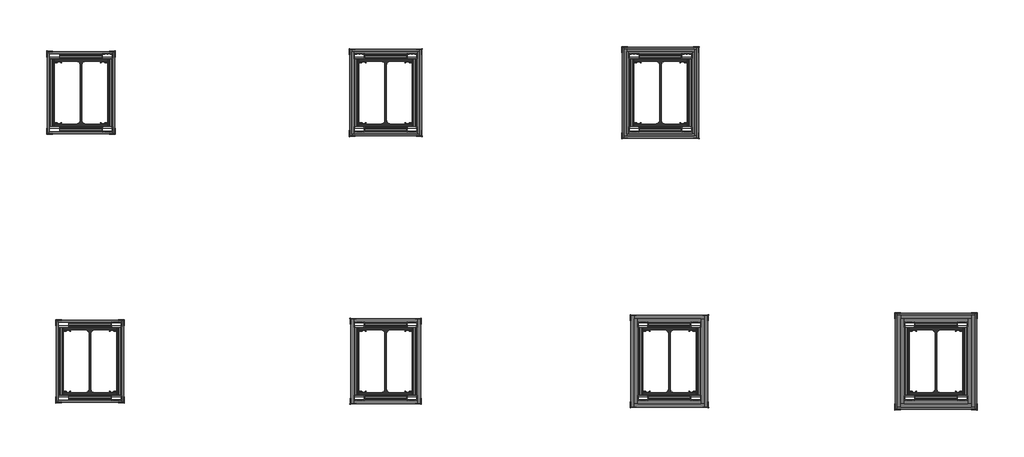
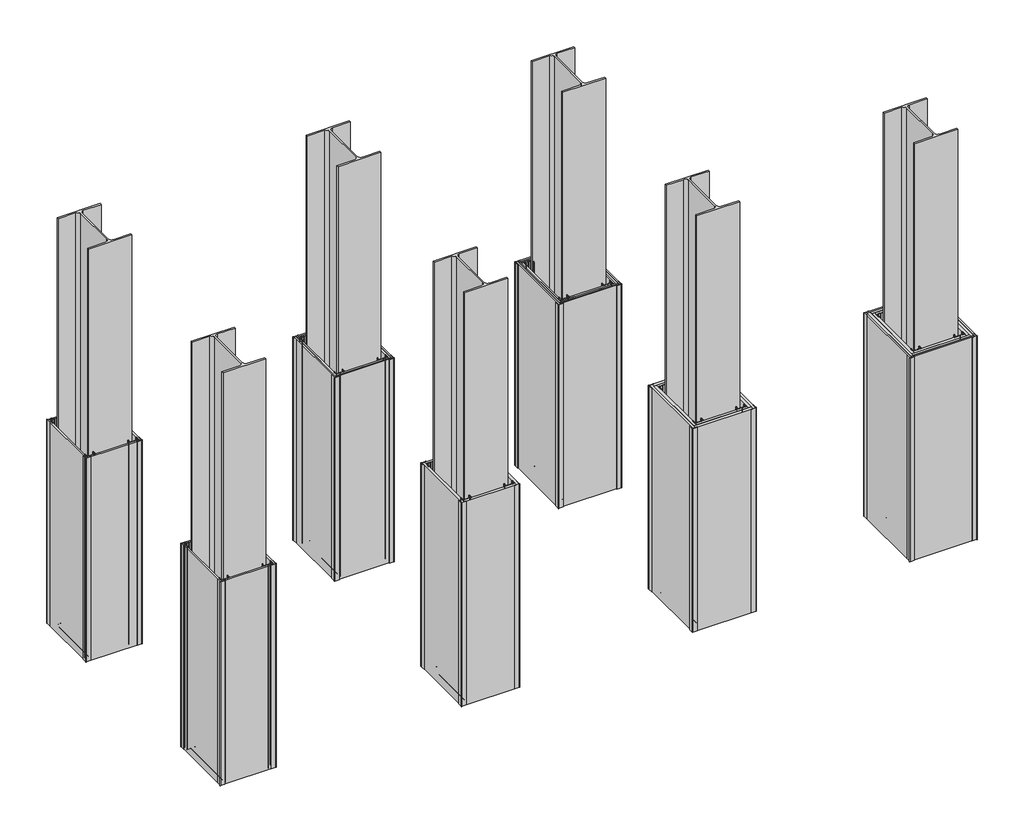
# One storey: 108 proxies, 14 columns.
"""IFC4 building model written with IfcOpenShell, lengths in millimetres."""

from ifc_helpers import new_model, si_unit, origin, place, context, project, spatial, transform, mapped, element, save
from components import mechanical_equipment_f312fb64, mechanical_equipment_8723e74f, mechanical_equipment_9e59f555, mechanical_equipment_1e4b647e, generic_models_da8a6fc9, generic_models_81ac6650, mechanical_equipment_f8a1cab5, mechanical_equipment_167060bf, generic_models_517ed48a, generic_models_b6768885, generic_models_21a93c99, generic_models_9ed90865, generic_models_85a3ba65, generic_models_de24bb9f, generic_models_1c3e6b41, generic_models_1a282b68, generic_models_c8f02a48, generic_models_18763be3, generic_models_7fcc82d4, generic_models_afc5f548, generic_models_3024f5be, generic_models_151085bc, column_70669c84, column_d6a319f2, column_7eb6c130, column_ee933b32, column_374d2ba1, column_57e66f01, i_40h1_c1fda57e

model = new_model("IFC4")

# Units and contexts
model_context = context("Model", 3, world=origin())
ifc_project = project(units=[si_unit("LENGTHUNIT", "METRE", prefix="MILLI")], contexts=[model_context])

# Site, building, storey
site = spatial("IfcSite", under=ifc_project)
building = spatial("IfcBuilding", under=site)
storey = spatial("IfcBuildingStorey", under=building, Name="Уровень 1", Elevation=0.0)

# Proxies
placement = place(None, origin())
mechanical_equipment_shape = mechanical_equipment_f312fb64(model_context)
element("IfcBuildingElementProxy", 1, Name="КНАУФ_Профильl ПП 60x27 : КНАУФ_Профильl ПП 60x27", ObjectType="КНАУФ_Профильl ПП 60x27 : КНАУФ_Профильl ПП 60x27", at=placement, inside=storey, context=model_context, shape_type="MappedRepresentation", body=[
    mapped(mechanical_equipment_shape, transform((-3480.594929, 1819.3710561, 30.0), x_axis=(1.0, 0.0, 0.0), y_axis=(0.0, 0.0, 1.0), z_axis=(0.0, -1.0, 0.0))),
])
element("IfcBuildingElementProxy", 2, Name="КНАУФ_Профильl ПП 60x27 : КНАУФ_Профильl ПП 60x27", ObjectType="КНАУФ_Профильl ПП 60x27 : КНАУФ_Профильl ПП 60x27", at=placement, inside=storey, context=model_context, shape_type="MappedRepresentation", body=[
    mapped(mechanical_equipment_shape, transform((-1743.554578, 1819.3710561, 30.0), x_axis=(1.0, 0.0, 0.0), y_axis=(0.0, 0.0, 1.0), z_axis=(0.0, -1.0, 0.0))),
])
element("IfcBuildingElementProxy", 3, Name="КНАУФ_Профильl ПП 60x27 : КНАУФ_Профильl ПП 60x27", ObjectType="КНАУФ_Профильl ПП 60x27 : КНАУФ_Профильl ПП 60x27", at=placement, inside=storey, context=model_context, shape_type="MappedRepresentation", body=[
    mapped(mechanical_equipment_shape, transform((-176.8123007, 1819.3710561, 30.0), x_axis=(1.0, 0.0, 0.0), y_axis=(0.0, 0.0, 1.0), z_axis=(0.0, -1.0, 0.0))),
])
element("IfcBuildingElementProxy", 4, Name="КНАУФ_Профильl ПП 60x27 : КНАУФ_Профильl ПП 60x27", ObjectType="КНАУФ_Профильl ПП 60x27 : КНАУФ_Профильl ПП 60x27", at=placement, inside=storey, context=model_context, shape_type="MappedRepresentation", body=[
    mapped(mechanical_equipment_shape, transform((-3429.505507, 287.8804799, 30.0), x_axis=(1.0, 0.0, 0.0), y_axis=(0.0, 0.0, 1.0), z_axis=(0.0, -1.0, 0.0))),
])
element("IfcBuildingElementProxy", 5, Name="КНАУФ_Профильl ПП 60x27 : КНАУФ_Профильl ПП 60x27", ObjectType="КНАУФ_Профильl ПП 60x27 : КНАУФ_Профильl ПП 60x27", at=placement, inside=storey, context=model_context, shape_type="MappedRepresentation", body=[
    mapped(mechanical_equipment_shape, transform((-1743.554578, 287.8804799, 30.0), x_axis=(1.0, 0.0, 0.0), y_axis=(0.0, 0.0, 1.0), z_axis=(0.0, -1.0, 0.0))),
])
element("IfcBuildingElementProxy", 6, Name="КНАУФ_Профильl ПП 60x27 : КНАУФ_Профильl ПП 60x27", ObjectType="КНАУФ_Профильl ПП 60x27 : КНАУФ_Профильl ПП 60x27", at=placement, inside=storey, context=model_context, shape_type="MappedRepresentation", body=[
    mapped(mechanical_equipment_shape, transform((-125.7228786, 287.8804799, 30.0), x_axis=(1.0, 0.0, 0.0), y_axis=(0.0, 0.0, 1.0), z_axis=(0.0, -1.0, 0.0))),
])
element("IfcBuildingElementProxy", 7, Name="КНАУФ_Профильl ПП 60x27 : КНАУФ_Профильl ПП 60x27", ObjectType="КНАУФ_Профильl ПП 60x27 : КНАУФ_Профильl ПП 60x27", at=placement, inside=storey, context=model_context, shape_type="MappedRepresentation", body=[
    mapped(mechanical_equipment_shape, transform((1394.2771214, 287.8804799, 30.0), x_axis=(1.0, 0.0, 0.0), y_axis=(0.0, 0.0, 1.0), z_axis=(0.0, -1.0, 0.0))),
])
mechanical_equipment_2_shape = mechanical_equipment_8723e74f(model_context)
element("IfcBuildingElementProxy", 8, Name="КНАУФ_Профильl ПП 60x27 : КНАУФ_Профильl ПП 60x27", ObjectType="КНАУФ_Профильl ПП 60x27 : КНАУФ_Профильl ПП 60x27", at=placement, inside=storey, context=model_context, shape_type="MappedRepresentation", body=[
    mapped(mechanical_equipment_2_shape, transform((-3480.594929, 1376.3710561, 30.0), x_axis=(1.0, 0.0, 0.0), y_axis=(0.0, 0.0, -1.0), z_axis=(0.0, 1.0, 0.0))),
])
element("IfcBuildingElementProxy", 9, Name="КНАУФ_Профильl ПП 60x27 : КНАУФ_Профильl ПП 60x27", ObjectType="КНАУФ_Профильl ПП 60x27 : КНАУФ_Профильl ПП 60x27", at=placement, inside=storey, context=model_context, shape_type="MappedRepresentation", body=[
    mapped(mechanical_equipment_2_shape, transform((-1743.554578, 1376.3710561, 30.0), x_axis=(1.0, 0.0, 0.0), y_axis=(0.0, 0.0, -1.0), z_axis=(0.0, 1.0, 0.0))),
])
element("IfcBuildingElementProxy", 10, Name="КНАУФ_Профильl ПП 60x27 : КНАУФ_Профильl ПП 60x27", ObjectType="КНАУФ_Профильl ПП 60x27 : КНАУФ_Профильl ПП 60x27", at=placement, inside=storey, context=model_context, shape_type="MappedRepresentation", body=[
    mapped(mechanical_equipment_2_shape, transform((-176.8123007, 1376.3710561, 30.0), x_axis=(1.0, 0.0, 0.0), y_axis=(0.0, 0.0, -1.0), z_axis=(0.0, 1.0, 0.0))),
])
element("IfcBuildingElementProxy", 11, Name="КНАУФ_Профильl ПП 60x27 : КНАУФ_Профильl ПП 60x27", ObjectType="КНАУФ_Профильl ПП 60x27 : КНАУФ_Профильl ПП 60x27", at=placement, inside=storey, context=model_context, shape_type="MappedRepresentation", body=[
    mapped(mechanical_equipment_2_shape, transform((-3429.505507, -155.1195201, 30.0), x_axis=(1.0, 0.0, 0.0), y_axis=(0.0, 0.0, -1.0), z_axis=(0.0, 1.0, 0.0))),
])
element("IfcBuildingElementProxy", 12, Name="КНАУФ_Профильl ПП 60x27 : КНАУФ_Профильl ПП 60x27", ObjectType="КНАУФ_Профильl ПП 60x27 : КНАУФ_Профильl ПП 60x27", at=placement, inside=storey, context=model_context, shape_type="MappedRepresentation", body=[
    mapped(mechanical_equipment_2_shape, transform((-1743.554578, -155.1195201, 30.0), x_axis=(1.0, 0.0, 0.0), y_axis=(0.0, 0.0, -1.0), z_axis=(0.0, 1.0, 0.0))),
])
element("IfcBuildingElementProxy", 13, Name="КНАУФ_Профильl ПП 60x27 : КНАУФ_Профильl ПП 60x27", ObjectType="КНАУФ_Профильl ПП 60x27 : КНАУФ_Профильl ПП 60x27", at=placement, inside=storey, context=model_context, shape_type="MappedRepresentation", body=[
    mapped(mechanical_equipment_2_shape, transform((-125.7228786, -155.1195201, 30.0), x_axis=(1.0, 0.0, 0.0), y_axis=(0.0, 0.0, -1.0), z_axis=(0.0, 1.0, 0.0))),
])
element("IfcBuildingElementProxy", 14, Name="КНАУФ_Профильl ПП 60x27 : КНАУФ_Профильl ПП 60x27", ObjectType="КНАУФ_Профильl ПП 60x27 : КНАУФ_Профильl ПП 60x27", at=placement, inside=storey, context=model_context, shape_type="MappedRepresentation", body=[
    mapped(mechanical_equipment_2_shape, transform((1394.2771214, -155.1195201, 30.0), x_axis=(1.0, 0.0, 0.0), y_axis=(0.0, 0.0, -1.0), z_axis=(0.0, 1.0, 0.0))),
])
mechanical_equipment_3_shape = mechanical_equipment_9e59f555(model_context)
element("IfcBuildingElementProxy", 15, Name="КНАУФ_Профильl ПП 60x27 : КНАУФ_Профильl ПП 60x27", ObjectType="КНАУФ_Профильl ПП 60x27 : КНАУФ_Профильl ПП 60x27", at=placement, inside=storey, context=model_context, shape_type="MappedRepresentation", body=[
    mapped(mechanical_equipment_3_shape, transform((-3510.594929, 1819.3710561, 0.0), x_axis=(0.0, 0.0, 1.0), y_axis=(-1.0, 0.0, 0.0), z_axis=(0.0, -1.0, 0.0))),
])
element("IfcBuildingElementProxy", 16, Name="КНАУФ_Профильl ПП 60x27 : КНАУФ_Профильl ПП 60x27", ObjectType="КНАУФ_Профильl ПП 60x27 : КНАУФ_Профильl ПП 60x27", at=placement, inside=storey, context=model_context, shape_type="MappedRepresentation", body=[
    mapped(mechanical_equipment_3_shape, transform((-3210.594929, 1376.3710561, 0.0), x_axis=(0.0, 0.0, 1.0), y_axis=(1.0, 0.0, 0.0), z_axis=(0.0, 1.0, 0.0))),
])
element("IfcBuildingElementProxy", 17, Name="КНАУФ_Профильl ПП 60x27 : КНАУФ_Профильl ПП 60x27", ObjectType="КНАУФ_Профильl ПП 60x27 : КНАУФ_Профильl ПП 60x27", at=placement, inside=storey, context=model_context, shape_type="MappedRepresentation", body=[
    mapped(mechanical_equipment_3_shape, transform((-1773.554578, 1819.3710561, 0.0), x_axis=(0.0, 0.0, 1.0), y_axis=(-1.0, 0.0, 0.0), z_axis=(0.0, -1.0, 0.0))),
])
element("IfcBuildingElementProxy", 18, Name="КНАУФ_Профильl ПП 60x27 : КНАУФ_Профильl ПП 60x27", ObjectType="КНАУФ_Профильl ПП 60x27 : КНАУФ_Профильl ПП 60x27", at=placement, inside=storey, context=model_context, shape_type="MappedRepresentation", body=[
    mapped(mechanical_equipment_3_shape, transform((-1473.554578, 1376.3710561, 0.0), x_axis=(0.0, 0.0, 1.0), y_axis=(1.0, 0.0, 0.0), z_axis=(0.0, 1.0, 0.0))),
])
element("IfcBuildingElementProxy", 19, Name="КНАУФ_Профильl ПП 60x27 : КНАУФ_Профильl ПП 60x27", ObjectType="КНАУФ_Профильl ПП 60x27 : КНАУФ_Профильl ПП 60x27", at=placement, inside=storey, context=model_context, shape_type="MappedRepresentation", body=[
    mapped(mechanical_equipment_3_shape, transform((-206.8123007, 1819.3710561, 0.0), x_axis=(0.0, 0.0, 1.0), y_axis=(-1.0, 0.0, 0.0), z_axis=(0.0, -1.0, 0.0))),
])
element("IfcBuildingElementProxy", 20, Name="КНАУФ_Профильl ПП 60x27 : КНАУФ_Профильl ПП 60x27", ObjectType="КНАУФ_Профильl ПП 60x27 : КНАУФ_Профильl ПП 60x27", at=placement, inside=storey, context=model_context, shape_type="MappedRepresentation", body=[
    mapped(mechanical_equipment_3_shape, transform((93.1876993, 1376.3710561, 0.0), x_axis=(0.0, 0.0, 1.0), y_axis=(1.0, 0.0, 0.0), z_axis=(0.0, 1.0, 0.0))),
])
element("IfcBuildingElementProxy", 21, Name="КНАУФ_Профильl ПП 60x27 : КНАУФ_Профильl ПП 60x27", ObjectType="КНАУФ_Профильl ПП 60x27 : КНАУФ_Профильl ПП 60x27", at=placement, inside=storey, context=model_context, shape_type="MappedRepresentation", body=[
    mapped(mechanical_equipment_3_shape, transform((-3459.505507, 287.8804799, 0.0), x_axis=(0.0, 0.0, 1.0), y_axis=(-1.0, 0.0, 0.0), z_axis=(0.0, -1.0, 0.0))),
])
element("IfcBuildingElementProxy", 22, Name="КНАУФ_Профильl ПП 60x27 : КНАУФ_Профильl ПП 60x27", ObjectType="КНАУФ_Профильl ПП 60x27 : КНАУФ_Профильl ПП 60x27", at=placement, inside=storey, context=model_context, shape_type="MappedRepresentation", body=[
    mapped(mechanical_equipment_3_shape, transform((-3159.505507, -155.1195201, 0.0), x_axis=(0.0, 0.0, 1.0), y_axis=(1.0, 0.0, 0.0), z_axis=(0.0, 1.0, 0.0))),
])
element("IfcBuildingElementProxy", 23, Name="КНАУФ_Профильl ПП 60x27 : КНАУФ_Профильl ПП 60x27", ObjectType="КНАУФ_Профильl ПП 60x27 : КНАУФ_Профильl ПП 60x27", at=placement, inside=storey, context=model_context, shape_type="MappedRepresentation", body=[
    mapped(mechanical_equipment_3_shape, transform((-1773.554578, 287.8804799, 0.0), x_axis=(0.0, 0.0, 1.0), y_axis=(-1.0, 0.0, 0.0), z_axis=(0.0, -1.0, 0.0))),
])
element("IfcBuildingElementProxy", 24, Name="КНАУФ_Профильl ПП 60x27 : КНАУФ_Профильl ПП 60x27", ObjectType="КНАУФ_Профильl ПП 60x27 : КНАУФ_Профильl ПП 60x27", at=placement, inside=storey, context=model_context, shape_type="MappedRepresentation", body=[
    mapped(mechanical_equipment_3_shape, transform((-1473.554578, -155.1195201, 0.0), x_axis=(0.0, 0.0, 1.0), y_axis=(1.0, 0.0, 0.0), z_axis=(0.0, 1.0, 0.0))),
])
element("IfcBuildingElementProxy", 25, Name="КНАУФ_Профильl ПП 60x27 : КНАУФ_Профильl ПП 60x27", ObjectType="КНАУФ_Профильl ПП 60x27 : КНАУФ_Профильl ПП 60x27", at=placement, inside=storey, context=model_context, shape_type="MappedRepresentation", body=[
    mapped(mechanical_equipment_3_shape, transform((-155.7228786, 287.8804799, 0.0), x_axis=(0.0, 0.0, 1.0), y_axis=(-1.0, 0.0, 0.0), z_axis=(0.0, -1.0, 0.0))),
])
element("IfcBuildingElementProxy", 26, Name="КНАУФ_Профильl ПП 60x27 : КНАУФ_Профильl ПП 60x27", ObjectType="КНАУФ_Профильl ПП 60x27 : КНАУФ_Профильl ПП 60x27", at=placement, inside=storey, context=model_context, shape_type="MappedRepresentation", body=[
    mapped(mechanical_equipment_3_shape, transform((144.2771214, -155.1195201, 0.0), x_axis=(0.0, 0.0, 1.0), y_axis=(1.0, 0.0, 0.0), z_axis=(0.0, 1.0, 0.0))),
])
element("IfcBuildingElementProxy", 27, Name="КНАУФ_Профильl ПП 60x27 : КНАУФ_Профильl ПП 60x27", ObjectType="КНАУФ_Профильl ПП 60x27 : КНАУФ_Профильl ПП 60x27", at=placement, inside=storey, context=model_context, shape_type="MappedRepresentation", body=[
    mapped(mechanical_equipment_3_shape, transform((1364.2771214, 287.8804799, 0.0), x_axis=(0.0, 0.0, 1.0), y_axis=(-1.0, 0.0, 0.0), z_axis=(0.0, -1.0, 0.0))),
])
element("IfcBuildingElementProxy", 28, Name="КНАУФ_Профильl ПП 60x27 : КНАУФ_Профильl ПП 60x27", ObjectType="КНАУФ_Профильl ПП 60x27 : КНАУФ_Профильl ПП 60x27", at=placement, inside=storey, context=model_context, shape_type="MappedRepresentation", body=[
    mapped(mechanical_equipment_3_shape, transform((1664.2771214, -155.1195201, 0.0), x_axis=(0.0, 0.0, 1.0), y_axis=(1.0, 0.0, 0.0), z_axis=(0.0, 1.0, 0.0))),
])
mechanical_equipment_4_shape = mechanical_equipment_1e4b647e(model_context)
element("IfcBuildingElementProxy", 29, Name="КНАУФ_Профильl ПП 60x27 : КНАУФ_Профильl ПП 60x27", ObjectType="КНАУФ_Профильl ПП 60x27 : КНАУФ_Профильl ПП 60x27", at=placement, inside=storey, context=model_context, shape_type="MappedRepresentation", body=[
    mapped(mechanical_equipment_4_shape, transform((-3210.594929, 1819.3710561, 0.0), x_axis=(0.0, 0.0, 1.0), y_axis=(-1.0, 0.0, 0.0), z_axis=(0.0, -1.0, 0.0))),
])
element("IfcBuildingElementProxy", 30, Name="КНАУФ_Профильl ПП 60x27 : КНАУФ_Профильl ПП 60x27", ObjectType="КНАУФ_Профильl ПП 60x27 : КНАУФ_Профильl ПП 60x27", at=placement, inside=storey, context=model_context, shape_type="MappedRepresentation", body=[
    mapped(mechanical_equipment_4_shape, transform((-3510.594929, 1376.3710561, 0.0), x_axis=(0.0, 0.0, 1.0), y_axis=(1.0, 0.0, 0.0), z_axis=(0.0, 1.0, 0.0))),
])
element("IfcBuildingElementProxy", 31, Name="КНАУФ_Профильl ПП 60x27 : КНАУФ_Профильl ПП 60x27", ObjectType="КНАУФ_Профильl ПП 60x27 : КНАУФ_Профильl ПП 60x27", at=placement, inside=storey, context=model_context, shape_type="MappedRepresentation", body=[
    mapped(mechanical_equipment_4_shape, transform((-1473.554578, 1819.3710561, 0.0), x_axis=(0.0, 0.0, 1.0), y_axis=(-1.0, 0.0, 0.0), z_axis=(0.0, -1.0, 0.0))),
])
element("IfcBuildingElementProxy", 32, Name="КНАУФ_Профильl ПП 60x27 : КНАУФ_Профильl ПП 60x27", ObjectType="КНАУФ_Профильl ПП 60x27 : КНАУФ_Профильl ПП 60x27", at=placement, inside=storey, context=model_context, shape_type="MappedRepresentation", body=[
    mapped(mechanical_equipment_4_shape, transform((-1773.554578, 1376.3710561, 0.0), x_axis=(0.0, 0.0, 1.0), y_axis=(1.0, 0.0, 0.0), z_axis=(0.0, 1.0, 0.0))),
])
element("IfcBuildingElementProxy", 33, Name="КНАУФ_Профильl ПП 60x27 : КНАУФ_Профильl ПП 60x27", ObjectType="КНАУФ_Профильl ПП 60x27 : КНАУФ_Профильl ПП 60x27", at=placement, inside=storey, context=model_context, shape_type="MappedRepresentation", body=[
    mapped(mechanical_equipment_4_shape, transform((93.1876993, 1819.3710561, 0.0), x_axis=(0.0, 0.0, 1.0), y_axis=(-1.0, 0.0, 0.0), z_axis=(0.0, -1.0, 0.0))),
])
element("IfcBuildingElementProxy", 34, Name="КНАУФ_Профильl ПП 60x27 : КНАУФ_Профильl ПП 60x27", ObjectType="КНАУФ_Профильl ПП 60x27 : КНАУФ_Профильl ПП 60x27", at=placement, inside=storey, context=model_context, shape_type="MappedRepresentation", body=[
    mapped(mechanical_equipment_4_shape, transform((-206.8123007, 1376.3710561, 0.0), x_axis=(0.0, 0.0, 1.0), y_axis=(1.0, 0.0, 0.0), z_axis=(0.0, 1.0, 0.0))),
])
element("IfcBuildingElementProxy", 35, Name="КНАУФ_Профильl ПП 60x27 : КНАУФ_Профильl ПП 60x27", ObjectType="КНАУФ_Профильl ПП 60x27 : КНАУФ_Профильl ПП 60x27", at=placement, inside=storey, context=model_context, shape_type="MappedRepresentation", body=[
    mapped(mechanical_equipment_4_shape, transform((-3159.505507, 287.8804799, 0.0), x_axis=(0.0, 0.0, 1.0), y_axis=(-1.0, 0.0, 0.0), z_axis=(0.0, -1.0, 0.0))),
])
element("IfcBuildingElementProxy", 36, Name="КНАУФ_Профильl ПП 60x27 : КНАУФ_Профильl ПП 60x27", ObjectType="КНАУФ_Профильl ПП 60x27 : КНАУФ_Профильl ПП 60x27", at=placement, inside=storey, context=model_context, shape_type="MappedRepresentation", body=[
    mapped(mechanical_equipment_4_shape, transform((-3459.505507, -155.1195201, 0.0), x_axis=(0.0, 0.0, 1.0), y_axis=(1.0, 0.0, 0.0), z_axis=(0.0, 1.0, 0.0))),
])
element("IfcBuildingElementProxy", 37, Name="КНАУФ_Профильl ПП 60x27 : КНАУФ_Профильl ПП 60x27", ObjectType="КНАУФ_Профильl ПП 60x27 : КНАУФ_Профильl ПП 60x27", at=placement, inside=storey, context=model_context, shape_type="MappedRepresentation", body=[
    mapped(mechanical_equipment_4_shape, transform((-1473.554578, 287.8804799, 0.0), x_axis=(0.0, 0.0, 1.0), y_axis=(-1.0, 0.0, 0.0), z_axis=(0.0, -1.0, 0.0))),
])
element("IfcBuildingElementProxy", 38, Name="КНАУФ_Профильl ПП 60x27 : КНАУФ_Профильl ПП 60x27", ObjectType="КНАУФ_Профильl ПП 60x27 : КНАУФ_Профильl ПП 60x27", at=placement, inside=storey, context=model_context, shape_type="MappedRepresentation", body=[
    mapped(mechanical_equipment_4_shape, transform((-1773.554578, -155.1195201, 0.0), x_axis=(0.0, 0.0, 1.0), y_axis=(1.0, 0.0, 0.0), z_axis=(0.0, 1.0, 0.0))),
])
element("IfcBuildingElementProxy", 39, Name="КНАУФ_Профильl ПП 60x27 : КНАУФ_Профильl ПП 60x27", ObjectType="КНАУФ_Профильl ПП 60x27 : КНАУФ_Профильl ПП 60x27", at=placement, inside=storey, context=model_context, shape_type="MappedRepresentation", body=[
    mapped(mechanical_equipment_4_shape, transform((144.2771214, 287.8804799, 0.0), x_axis=(0.0, 0.0, 1.0), y_axis=(-1.0, 0.0, 0.0), z_axis=(0.0, -1.0, 0.0))),
])
element("IfcBuildingElementProxy", 40, Name="КНАУФ_Профильl ПП 60x27 : КНАУФ_Профильl ПП 60x27", ObjectType="КНАУФ_Профильl ПП 60x27 : КНАУФ_Профильl ПП 60x27", at=placement, inside=storey, context=model_context, shape_type="MappedRepresentation", body=[
    mapped(mechanical_equipment_4_shape, transform((-155.7228786, -155.1195201, 0.0), x_axis=(0.0, 0.0, 1.0), y_axis=(1.0, 0.0, 0.0), z_axis=(0.0, 1.0, 0.0))),
])
element("IfcBuildingElementProxy", 41, Name="КНАУФ_Профильl ПП 60x27 : КНАУФ_Профильl ПП 60x27", ObjectType="КНАУФ_Профильl ПП 60x27 : КНАУФ_Профильl ПП 60x27", at=placement, inside=storey, context=model_context, shape_type="MappedRepresentation", body=[
    mapped(mechanical_equipment_4_shape, transform((1664.2771214, 287.8804799, 0.0), x_axis=(0.0, 0.0, 1.0), y_axis=(-1.0, 0.0, 0.0), z_axis=(0.0, -1.0, 0.0))),
])
element("IfcBuildingElementProxy", 42, Name="КНАУФ_Профильl ПП 60x27 : КНАУФ_Профильl ПП 60x27", ObjectType="КНАУФ_Профильl ПП 60x27 : КНАУФ_Профильl ПП 60x27", at=placement, inside=storey, context=model_context, shape_type="MappedRepresentation", body=[
    mapped(mechanical_equipment_4_shape, transform((1364.2771214, -155.1195201, 0.0), x_axis=(0.0, 0.0, 1.0), y_axis=(1.0, 0.0, 0.0), z_axis=(0.0, 1.0, 0.0))),
])
generic_models_shape = generic_models_da8a6fc9(model_context)
element("IfcBuildingElementProxy", 43, Name="КНАУФ-Суперлист : КНАУФ-Суперлист", ObjectType="КНАУФ-Суперлист : КНАУФ-Суперлист", at=placement, inside=storey, context=model_context, shape_type="MappedRepresentation", body=[
    mapped(generic_models_shape, transform((-3360.594929, 1363.8710561, 0.0), x_axis=(1.0, 0.0, 0.0), y_axis=(0.0, 1.0, 0.0), z_axis=(0.0, 0.0, 1.0))),
])
element("IfcBuildingElementProxy", 44, Name="КНАУФ-Суперлист : КНАУФ-Суперлист", ObjectType="КНАУФ-Суперлист : КНАУФ-Суперлист", at=placement, inside=storey, context=model_context, shape_type="MappedRepresentation", body=[
    mapped(generic_models_shape, transform((-1623.554578, 1363.8710561, 0.0), x_axis=(1.0, 0.0, 0.0), y_axis=(0.0, 1.0, 0.0), z_axis=(0.0, 0.0, 1.0))),
])
element("IfcBuildingElementProxy", 45, Name="КНАУФ-Суперлист : КНАУФ-Суперлист", ObjectType="КНАУФ-Суперлист : КНАУФ-Суперлист", at=placement, inside=storey, context=model_context, shape_type="MappedRepresentation", body=[
    mapped(generic_models_shape, transform((-56.8123007, 1363.8710561, 0.0), x_axis=(1.0, 0.0, 0.0), y_axis=(0.0, 1.0, 0.0), z_axis=(0.0, 0.0, 1.0))),
])
generic_models_2_shape = generic_models_81ac6650(model_context)
element("IfcBuildingElementProxy", 46, Name="КНАУФ-Суперлист : КНАУФ-Суперлист", ObjectType="КНАУФ-Суперлист : КНАУФ-Суперлист", at=placement, inside=storey, context=model_context, shape_type="MappedRepresentation", body=[
    mapped(generic_models_2_shape, transform((-3360.594929, 1831.8710561, 0.0), x_axis=(1.0, 0.0, 0.0), y_axis=(0.0, 1.0, 0.0), z_axis=(0.0, 0.0, 1.0))),
])
element("IfcBuildingElementProxy", 47, Name="КНАУФ-Суперлист : КНАУФ-Суперлист", ObjectType="КНАУФ-Суперлист : КНАУФ-Суперлист", at=placement, inside=storey, context=model_context, shape_type="MappedRepresentation", body=[
    mapped(generic_models_2_shape, transform((-1623.554578, 1831.8710561, 0.0), x_axis=(1.0, 0.0, 0.0), y_axis=(0.0, 1.0, 0.0), z_axis=(0.0, 0.0, 1.0))),
])
element("IfcBuildingElementProxy", 48, Name="КНАУФ-Суперлист : КНАУФ-Суперлист", ObjectType="КНАУФ-Суперлист : КНАУФ-Суперлист", at=placement, inside=storey, context=model_context, shape_type="MappedRepresentation", body=[
    mapped(generic_models_2_shape, transform((-56.8123007, 1831.8710561, 0.0), x_axis=(1.0, 0.0, 0.0), y_axis=(0.0, 1.0, 0.0), z_axis=(0.0, 0.0, 1.0))),
])
mechanical_equipment_5_shape = mechanical_equipment_f8a1cab5(model_context)
element("IfcBuildingElementProxy", 49, Name="КНАУФ_Профильl ПП 60x27 : КНАУФ_Профильl ПП 60x27", ObjectType="КНАУФ_Профильl ПП 60x27 : КНАУФ_Профильl ПП 60x27", at=placement, inside=storey, context=model_context, shape_type="MappedRepresentation", body=[
    mapped(mechanical_equipment_5_shape, transform((-3180.594929, 1406.3710561, 30.0), x_axis=(0.0, 1.0, 0.0), y_axis=(0.0, 0.0, -1.0), z_axis=(-1.0, 0.0, 0.0))),
])
element("IfcBuildingElementProxy", 50, Name="КНАУФ_Профильl ПП 60x27 : КНАУФ_Профильl ПП 60x27", ObjectType="КНАУФ_Профильl ПП 60x27 : КНАУФ_Профильl ПП 60x27", at=placement, inside=storey, context=model_context, shape_type="MappedRepresentation", body=[
    mapped(mechanical_equipment_5_shape, transform((-1443.554578, 1406.3710561, 30.0), x_axis=(0.0, 1.0, 0.0), y_axis=(0.0, 0.0, -1.0), z_axis=(-1.0, 0.0, 0.0))),
])
element("IfcBuildingElementProxy", 51, Name="КНАУФ_Профильl ПП 60x27 : КНАУФ_Профильl ПП 60x27", ObjectType="КНАУФ_Профильl ПП 60x27 : КНАУФ_Профильl ПП 60x27", at=placement, inside=storey, context=model_context, shape_type="MappedRepresentation", body=[
    mapped(mechanical_equipment_5_shape, transform((123.1876993, 1406.3710561, 30.0), x_axis=(0.0, 1.0, 0.0), y_axis=(0.0, 0.0, -1.0), z_axis=(-1.0, 0.0, 0.0))),
])
element("IfcBuildingElementProxy", 52, Name="КНАУФ_Профильl ПП 60x27 : КНАУФ_Профильl ПП 60x27", ObjectType="КНАУФ_Профильl ПП 60x27 : КНАУФ_Профильl ПП 60x27", at=placement, inside=storey, context=model_context, shape_type="MappedRepresentation", body=[
    mapped(mechanical_equipment_5_shape, transform((-3129.505507, -125.1195201, 30.0), x_axis=(0.0, 1.0, 0.0), y_axis=(0.0, 0.0, -1.0), z_axis=(-1.0, 0.0, 0.0))),
])
element("IfcBuildingElementProxy", 53, Name="КНАУФ_Профильl ПП 60x27 : КНАУФ_Профильl ПП 60x27", ObjectType="КНАУФ_Профильl ПП 60x27 : КНАУФ_Профильl ПП 60x27", at=placement, inside=storey, context=model_context, shape_type="MappedRepresentation", body=[
    mapped(mechanical_equipment_5_shape, transform((-1443.554578, -125.1195201, 30.0), x_axis=(0.0, 1.0, 0.0), y_axis=(0.0, 0.0, -1.0), z_axis=(-1.0, 0.0, 0.0))),
])
element("IfcBuildingElementProxy", 54, Name="КНАУФ_Профильl ПП 60x27 : КНАУФ_Профильl ПП 60x27", ObjectType="КНАУФ_Профильl ПП 60x27 : КНАУФ_Профильl ПП 60x27", at=placement, inside=storey, context=model_context, shape_type="MappedRepresentation", body=[
    mapped(mechanical_equipment_5_shape, transform((174.2771214, -125.1195201, 30.0), x_axis=(0.0, 1.0, 0.0), y_axis=(0.0, 0.0, -1.0), z_axis=(-1.0, 0.0, 0.0))),
])
element("IfcBuildingElementProxy", 55, Name="КНАУФ_Профильl ПП 60x27 : КНАУФ_Профильl ПП 60x27", ObjectType="КНАУФ_Профильl ПП 60x27 : КНАУФ_Профильl ПП 60x27", at=placement, inside=storey, context=model_context, shape_type="MappedRepresentation", body=[
    mapped(mechanical_equipment_5_shape, transform((1694.2771214, -125.1195201, 30.0), x_axis=(0.0, 1.0, 0.0), y_axis=(0.0, 0.0, -1.0), z_axis=(-1.0, 0.0, 0.0))),
])
mechanical_equipment_6_shape = mechanical_equipment_167060bf(model_context)
element("IfcBuildingElementProxy", 56, Name="КНАУФ_Профильl ПП 60x27 : КНАУФ_Профильl ПП 60x27", ObjectType="КНАУФ_Профильl ПП 60x27 : КНАУФ_Профильl ПП 60x27", at=placement, inside=storey, context=model_context, shape_type="MappedRepresentation", body=[
    mapped(mechanical_equipment_6_shape, transform((-3540.594929, 1406.3710561, 30.0), x_axis=(0.0, 1.0, 0.0), y_axis=(0.0, 0.0, 1.0), z_axis=(1.0, 0.0, 0.0))),
])
element("IfcBuildingElementProxy", 57, Name="КНАУФ_Профильl ПП 60x27 : КНАУФ_Профильl ПП 60x27", ObjectType="КНАУФ_Профильl ПП 60x27 : КНАУФ_Профильl ПП 60x27", at=placement, inside=storey, context=model_context, shape_type="MappedRepresentation", body=[
    mapped(mechanical_equipment_6_shape, transform((-1803.554578, 1406.3710561, 30.0), x_axis=(0.0, 1.0, 0.0), y_axis=(0.0, 0.0, 1.0), z_axis=(1.0, 0.0, 0.0))),
])
element("IfcBuildingElementProxy", 58, Name="КНАУФ_Профильl ПП 60x27 : КНАУФ_Профильl ПП 60x27", ObjectType="КНАУФ_Профильl ПП 60x27 : КНАУФ_Профильl ПП 60x27", at=placement, inside=storey, context=model_context, shape_type="MappedRepresentation", body=[
    mapped(mechanical_equipment_6_shape, transform((-236.8123007, 1406.3710561, 30.0), x_axis=(0.0, 1.0, 0.0), y_axis=(0.0, 0.0, 1.0), z_axis=(1.0, 0.0, 0.0))),
])
element("IfcBuildingElementProxy", 59, Name="КНАУФ_Профильl ПП 60x27 : КНАУФ_Профильl ПП 60x27", ObjectType="КНАУФ_Профильl ПП 60x27 : КНАУФ_Профильl ПП 60x27", at=placement, inside=storey, context=model_context, shape_type="MappedRepresentation", body=[
    mapped(mechanical_equipment_6_shape, transform((-3489.505507, -125.1195201, 30.0), x_axis=(0.0, 1.0, 0.0), y_axis=(0.0, 0.0, 1.0), z_axis=(1.0, 0.0, 0.0))),
])
element("IfcBuildingElementProxy", 60, Name="КНАУФ_Профильl ПП 60x27 : КНАУФ_Профильl ПП 60x27", ObjectType="КНАУФ_Профильl ПП 60x27 : КНАУФ_Профильl ПП 60x27", at=placement, inside=storey, context=model_context, shape_type="MappedRepresentation", body=[
    mapped(mechanical_equipment_6_shape, transform((-1803.554578, -125.1195201, 30.0), x_axis=(0.0, 1.0, 0.0), y_axis=(0.0, 0.0, 1.0), z_axis=(1.0, 0.0, 0.0))),
])
element("IfcBuildingElementProxy", 61, Name="КНАУФ_Профильl ПП 60x27 : КНАУФ_Профильl ПП 60x27", ObjectType="КНАУФ_Профильl ПП 60x27 : КНАУФ_Профильl ПП 60x27", at=placement, inside=storey, context=model_context, shape_type="MappedRepresentation", body=[
    mapped(mechanical_equipment_6_shape, transform((-185.7228786, -125.1195201, 30.0), x_axis=(0.0, 1.0, 0.0), y_axis=(0.0, 0.0, 1.0), z_axis=(1.0, 0.0, 0.0))),
])
element("IfcBuildingElementProxy", 62, Name="КНАУФ_Профильl ПП 60x27 : КНАУФ_Профильl ПП 60x27", ObjectType="КНАУФ_Профильl ПП 60x27 : КНАУФ_Профильl ПП 60x27", at=placement, inside=storey, context=model_context, shape_type="MappedRepresentation", body=[
    mapped(mechanical_equipment_6_shape, transform((1334.2771214, -125.1195201, 30.0), x_axis=(0.0, 1.0, 0.0), y_axis=(0.0, 0.0, 1.0), z_axis=(1.0, 0.0, 0.0))),
])
generic_models_3_shape = generic_models_517ed48a(model_context)
element("IfcBuildingElementProxy", 63, Name="КНАУФ-Суперлист : КНАУФ-Суперлист", ObjectType="КНАУФ-Суперлист : КНАУФ-Суперлист", at=placement, inside=storey, context=model_context, shape_type="MappedRepresentation", body=[
    mapped(generic_models_3_shape, transform((-3553.094929, 1597.8710561, 0.0), x_axis=(0.0, -1.0, 0.0), y_axis=(1.0, 0.0, 0.0), z_axis=(0.0, 0.0, 1.0))),
])
element("IfcBuildingElementProxy", 64, Name="КНАУФ-Суперлист : КНАУФ-Суперлист", ObjectType="КНАУФ-Суперлист : КНАУФ-Суперлист", at=placement, inside=storey, context=model_context, shape_type="MappedRepresentation", body=[
    mapped(generic_models_3_shape, transform((-3180.594929, 1597.8710561, 0.0), x_axis=(0.0, -1.0, 0.0), y_axis=(1.0, 0.0, 0.0), z_axis=(0.0, 0.0, 1.0))),
])
element("IfcBuildingElementProxy", 65, Name="КНАУФ-Суперлист : КНАУФ-Суперлист", ObjectType="КНАУФ-Суперлист : КНАУФ-Суперлист", at=placement, inside=storey, context=model_context, shape_type="MappedRepresentation", body=[
    mapped(generic_models_3_shape, transform((-1816.054578, 1597.8710561, 0.0), x_axis=(0.0, -1.0, 0.0), y_axis=(1.0, 0.0, 0.0), z_axis=(0.0, 0.0, 1.0))),
])
element("IfcBuildingElementProxy", 66, Name="КНАУФ-Суперлист : КНАУФ-Суперлист", ObjectType="КНАУФ-Суперлист : КНАУФ-Суперлист", at=placement, inside=storey, context=model_context, shape_type="MappedRepresentation", body=[
    mapped(generic_models_3_shape, transform((-1443.554578, 1597.8710561, 0.0), x_axis=(0.0, -1.0, 0.0), y_axis=(1.0, 0.0, 0.0), z_axis=(0.0, 0.0, 1.0))),
])
element("IfcBuildingElementProxy", 67, Name="КНАУФ-Суперлист : КНАУФ-Суперлист", ObjectType="КНАУФ-Суперлист : КНАУФ-Суперлист", at=placement, inside=storey, context=model_context, shape_type="MappedRepresentation", body=[
    mapped(generic_models_3_shape, transform((-249.3123007, 1597.8710561, 0.0), x_axis=(0.0, -1.0, 0.0), y_axis=(1.0, 0.0, 0.0), z_axis=(0.0, 0.0, 1.0))),
])
element("IfcBuildingElementProxy", 68, Name="КНАУФ-Суперлист : КНАУФ-Суперлист", ObjectType="КНАУФ-Суперлист : КНАУФ-Суперлист", at=placement, inside=storey, context=model_context, shape_type="MappedRepresentation", body=[
    mapped(generic_models_3_shape, transform((123.1876993, 1597.8710561, 0.0), x_axis=(0.0, -1.0, 0.0), y_axis=(1.0, 0.0, 0.0), z_axis=(0.0, 0.0, 1.0))),
])
generic_models_4_shape = generic_models_b6768885(model_context)
element("IfcBuildingElementProxy", 69, Name="КНАУФ-Суперлист : КНАУФ-Суперлист", ObjectType="КНАУФ-Суперлист : КНАУФ-Суперлист", at=placement, inside=storey, context=model_context, shape_type="MappedRepresentation", body=[
    mapped(generic_models_4_shape, transform((-1828.554578, 1597.8710561, 0.0), x_axis=(0.0, -1.0, 0.0), y_axis=(1.0, 0.0, 0.0), z_axis=(0.0, 0.0, 1.0))),
])
element("IfcBuildingElementProxy", 70, Name="КНАУФ-Суперлист : КНАУФ-Суперлист", ObjectType="КНАУФ-Суперлист : КНАУФ-Суперлист", at=placement, inside=storey, context=model_context, shape_type="MappedRepresentation", body=[
    mapped(generic_models_4_shape, transform((-1431.054578, 1597.8710561, 0.0), x_axis=(0.0, -1.0, 0.0), y_axis=(1.0, 0.0, 0.0), z_axis=(0.0, 0.0, 1.0))),
])
element("IfcBuildingElementProxy", 71, Name="КНАУФ-Суперлист : КНАУФ-Суперлист", ObjectType="КНАУФ-Суперлист : КНАУФ-Суперлист", at=placement, inside=storey, context=model_context, shape_type="MappedRepresentation", body=[
    mapped(generic_models_4_shape, transform((-261.8123007, 1597.8710561, 0.0), x_axis=(0.0, -1.0, 0.0), y_axis=(1.0, 0.0, 0.0), z_axis=(0.0, 0.0, 1.0))),
])
element("IfcBuildingElementProxy", 72, Name="КНАУФ-Суперлист : КНАУФ-Суперлист", ObjectType="КНАУФ-Суперлист : КНАУФ-Суперлист", at=placement, inside=storey, context=model_context, shape_type="MappedRepresentation", body=[
    mapped(generic_models_4_shape, transform((135.6876993, 1597.8710561, 0.0), x_axis=(0.0, -1.0, 0.0), y_axis=(1.0, 0.0, 0.0), z_axis=(0.0, 0.0, 1.0))),
])
generic_models_5_shape = generic_models_21a93c99(model_context)
element("IfcBuildingElementProxy", 73, Name="КНАУФ-Суперлист : КНАУФ-Суперлист", ObjectType="КНАУФ-Суперлист : КНАУФ-Суперлист", at=placement, inside=storey, context=model_context, shape_type="MappedRepresentation", body=[
    mapped(generic_models_5_shape, transform((-1623.554578, 1844.3710561, 0.0), x_axis=(1.0, 0.0, 0.0), y_axis=(0.0, 1.0, 0.0), z_axis=(0.0, 0.0, 1.0))),
])
element("IfcBuildingElementProxy", 74, Name="КНАУФ-Суперлист : КНАУФ-Суперлист", ObjectType="КНАУФ-Суперлист : КНАУФ-Суперлист", at=placement, inside=storey, context=model_context, shape_type="MappedRepresentation", body=[
    mapped(generic_models_5_shape, transform((-56.8123007, 1844.3710561, 0.0), x_axis=(1.0, 0.0, 0.0), y_axis=(0.0, 1.0, 0.0), z_axis=(0.0, 0.0, 1.0))),
])
generic_models_6_shape = generic_models_9ed90865(model_context)
element("IfcBuildingElementProxy", 75, Name="КНАУФ-Суперлист : КНАУФ-Суперлист", ObjectType="КНАУФ-Суперлист : КНАУФ-Суперлист", at=placement, inside=storey, context=model_context, shape_type="MappedRepresentation", body=[
    mapped(generic_models_6_shape, transform((-1623.554578, 1351.3710561, 0.0), x_axis=(1.0, 0.0, 0.0), y_axis=(0.0, 1.0, 0.0), z_axis=(0.0, 0.0, 1.0))),
])
element("IfcBuildingElementProxy", 76, Name="КНАУФ-Суперлист : КНАУФ-Суперлист", ObjectType="КНАУФ-Суперлист : КНАУФ-Суперлист", at=placement, inside=storey, context=model_context, shape_type="MappedRepresentation", body=[
    mapped(generic_models_6_shape, transform((-56.8123007, 1351.3710561, 0.0), x_axis=(1.0, 0.0, 0.0), y_axis=(0.0, 1.0, 0.0), z_axis=(0.0, 0.0, 1.0))),
])
generic_models_7_shape = generic_models_85a3ba65(model_context)
element("IfcBuildingElementProxy", 77, Name="КНАУФ-Суперлист : КНАУФ-Суперлист", ObjectType="КНАУФ-Суперлист : КНАУФ-Суперлист", at=placement, inside=storey, context=model_context, shape_type="MappedRepresentation", body=[
    mapped(generic_models_7_shape, transform((-56.8123007, 1856.8710561, 0.0), x_axis=(1.0, 0.0, 0.0), y_axis=(0.0, 1.0, 0.0), z_axis=(0.0, 0.0, 1.0))),
])
element("IfcBuildingElementProxy", 78, Name="КНАУФ-Суперлист : КНАУФ-Суперлист", ObjectType="КНАУФ-Суперлист : КНАУФ-Суперлист", at=placement, inside=storey, context=model_context, shape_type="MappedRepresentation", body=[
    mapped(generic_models_7_shape, transform((-56.8123007, 1351.3710561, 0.0), x_axis=(1.0, 0.0, 0.0), y_axis=(0.0, 1.0, 0.0), z_axis=(0.0, 0.0, 1.0))),
])
generic_models_8_shape = generic_models_de24bb9f(model_context)
element("IfcBuildingElementProxy", 79, Name="КНАУФ-Суперлист : КНАУФ-Суперлист", ObjectType="КНАУФ-Суперлист : КНАУФ-Суперлист", at=placement, inside=storey, context=model_context, shape_type="MappedRepresentation", body=[
    mapped(generic_models_8_shape, transform((-274.3123007, 1597.8710561, 0.0), x_axis=(0.0, -1.0, 0.0), y_axis=(1.0, 0.0, 0.0), z_axis=(0.0, 0.0, 1.0))),
])
element("IfcBuildingElementProxy", 80, Name="КНАУФ-Суперлист : КНАУФ-Суперлист", ObjectType="КНАУФ-Суперлист : КНАУФ-Суперлист", at=placement, inside=storey, context=model_context, shape_type="MappedRepresentation", body=[
    mapped(generic_models_8_shape, transform((148.1876993, 1597.8710561, 0.0), x_axis=(0.0, -1.0, 0.0), y_axis=(1.0, 0.0, 0.0), z_axis=(0.0, 0.0, 1.0))),
])
element("IfcBuildingElementProxy", 81, Name="КНАУФ-Файерборд : КНАУФ-Файерборд", ObjectType="КНАУФ-Файерборд : КНАУФ-Файерборд", at=placement, inside=storey, context=model_context, shape_type="MappedRepresentation", body=[
    mapped(generic_models_shape, transform((-3309.505507, -167.6195201, 0.0), x_axis=(1.0, 0.0, 0.0), y_axis=(0.0, 1.0, 0.0), z_axis=(0.0, 0.0, 1.0))),
])
element("IfcBuildingElementProxy", 82, Name="КНАУФ-Файерборд : КНАУФ-Файерборд", ObjectType="КНАУФ-Файерборд : КНАУФ-Файерборд", at=placement, inside=storey, context=model_context, shape_type="MappedRepresentation", body=[
    mapped(generic_models_2_shape, transform((-3309.505507, 300.3804799, 0.0), x_axis=(1.0, 0.0, 0.0), y_axis=(0.0, 1.0, 0.0), z_axis=(0.0, 0.0, 1.0))),
])
element("IfcBuildingElementProxy", 83, Name="КНАУФ-Файерборд : КНАУФ-Файерборд", ObjectType="КНАУФ-Файерборд : КНАУФ-Файерборд", at=placement, inside=storey, context=model_context, shape_type="MappedRepresentation", body=[
    mapped(generic_models_3_shape, transform((-3502.005507, 66.3804799, 0.0), x_axis=(0.0, -1.0, 0.0), y_axis=(1.0, 0.0, 0.0), z_axis=(0.0, 0.0, 1.0))),
])
element("IfcBuildingElementProxy", 84, Name="КНАУФ-Файерборд : КНАУФ-Файерборд", ObjectType="КНАУФ-Файерборд : КНАУФ-Файерборд", at=placement, inside=storey, context=model_context, shape_type="MappedRepresentation", body=[
    mapped(generic_models_3_shape, transform((-3129.505507, 66.3804799, 0.0), x_axis=(0.0, -1.0, 0.0), y_axis=(1.0, 0.0, 0.0), z_axis=(0.0, 0.0, 1.0))),
])
generic_models_9_shape = generic_models_1c3e6b41(model_context)
element("IfcBuildingElementProxy", 85, Name="КНАУФ-Файерборд : КНАУФ-Файерборд", ObjectType="КНАУФ-Файерборд : КНАУФ-Файерборд", at=placement, inside=storey, context=model_context, shape_type="MappedRepresentation", body=[
    mapped(generic_models_9_shape, transform((-1623.554578, -175.1195201, 0.0), x_axis=(1.0, 0.0, 0.0), y_axis=(0.0, 1.0, 0.0), z_axis=(0.0, 0.0, 1.0))),
])
element("IfcBuildingElementProxy", 86, Name="КНАУФ-Файерборд : КНАУФ-Файерборд", ObjectType="КНАУФ-Файерборд : КНАУФ-Файерборд", at=placement, inside=storey, context=model_context, shape_type="MappedRepresentation", body=[
    mapped(generic_models_9_shape, transform((-5.7228786, -175.1195201, 0.0), x_axis=(1.0, 0.0, 0.0), y_axis=(0.0, 1.0, 0.0), z_axis=(0.0, 0.0, 1.0))),
])
element("IfcBuildingElementProxy", 87, Name="КНАУФ-Файерборд : КНАУФ-Файерборд", ObjectType="КНАУФ-Файерборд : КНАУФ-Файерборд", at=placement, inside=storey, context=model_context, shape_type="MappedRepresentation", body=[
    mapped(generic_models_9_shape, transform((1514.2771214, -175.1195201, 0.0), x_axis=(1.0, 0.0, 0.0), y_axis=(0.0, 1.0, 0.0), z_axis=(0.0, 0.0, 1.0))),
])
generic_models_10_shape = generic_models_1a282b68(model_context)
element("IfcBuildingElementProxy", 88, Name="КНАУФ-Файерборд : КНАУФ-Файерборд", ObjectType="КНАУФ-Файерборд : КНАУФ-Файерборд", at=placement, inside=storey, context=model_context, shape_type="MappedRepresentation", body=[
    mapped(generic_models_10_shape, transform((-1623.554578, 307.8804799, 0.0), x_axis=(1.0, 0.0, 0.0), y_axis=(0.0, 1.0, 0.0), z_axis=(0.0, 0.0, 1.0))),
])
element("IfcBuildingElementProxy", 89, Name="КНАУФ-Файерборд : КНАУФ-Файерборд", ObjectType="КНАУФ-Файерборд : КНАУФ-Файерборд", at=placement, inside=storey, context=model_context, shape_type="MappedRepresentation", body=[
    mapped(generic_models_10_shape, transform((-5.7228786, 307.8804799, 0.0), x_axis=(1.0, 0.0, 0.0), y_axis=(0.0, 1.0, 0.0), z_axis=(0.0, 0.0, 1.0))),
])
element("IfcBuildingElementProxy", 90, Name="КНАУФ-Файерборд : КНАУФ-Файерборд", ObjectType="КНАУФ-Файерборд : КНАУФ-Файерборд", at=placement, inside=storey, context=model_context, shape_type="MappedRepresentation", body=[
    mapped(generic_models_10_shape, transform((1514.2771214, 307.8804799, 0.0), x_axis=(1.0, 0.0, 0.0), y_axis=(0.0, 1.0, 0.0), z_axis=(0.0, 0.0, 1.0))),
])
generic_models_11_shape = generic_models_c8f02a48(model_context)
element("IfcBuildingElementProxy", 91, Name="КНАУФ-Файерборд : КНАУФ-Файерборд", ObjectType="КНАУФ-Файерборд : КНАУФ-Файерборд", at=placement, inside=storey, context=model_context, shape_type="MappedRepresentation", body=[
    mapped(generic_models_11_shape, transform((-1823.554578, 66.3804799, 0.0), x_axis=(0.0, -1.0, 0.0), y_axis=(1.0, 0.0, 0.0), z_axis=(0.0, 0.0, 1.0))),
])
element("IfcBuildingElementProxy", 92, Name="КНАУФ-Файерборд : КНАУФ-Файерборд", ObjectType="КНАУФ-Файерборд : КНАУФ-Файерборд", at=placement, inside=storey, context=model_context, shape_type="MappedRepresentation", body=[
    mapped(generic_models_11_shape, transform((-1443.554578, 66.3804799, 0.0), x_axis=(0.0, -1.0, 0.0), y_axis=(1.0, 0.0, 0.0), z_axis=(0.0, 0.0, 1.0))),
])
element("IfcBuildingElementProxy", 93, Name="КНАУФ-Файерборд : КНАУФ-Файерборд", ObjectType="КНАУФ-Файерборд : КНАУФ-Файерборд", at=placement, inside=storey, context=model_context, shape_type="MappedRepresentation", body=[
    mapped(generic_models_11_shape, transform((-205.7228786, 66.3804799, 0.0), x_axis=(0.0, -1.0, 0.0), y_axis=(1.0, 0.0, 0.0), z_axis=(0.0, 0.0, 1.0))),
])
element("IfcBuildingElementProxy", 94, Name="КНАУФ-Файерборд : КНАУФ-Файерборд", ObjectType="КНАУФ-Файерборд : КНАУФ-Файерборд", at=placement, inside=storey, context=model_context, shape_type="MappedRepresentation", body=[
    mapped(generic_models_11_shape, transform((174.2771214, 66.3804799, 0.0), x_axis=(0.0, -1.0, 0.0), y_axis=(1.0, 0.0, 0.0), z_axis=(0.0, 0.0, 1.0))),
])
element("IfcBuildingElementProxy", 95, Name="КНАУФ-Файерборд : КНАУФ-Файерборд", ObjectType="КНАУФ-Файерборд : КНАУФ-Файерборд", at=placement, inside=storey, context=model_context, shape_type="MappedRepresentation", body=[
    mapped(generic_models_11_shape, transform((1314.2771214, 66.3804799, 0.0), x_axis=(0.0, -1.0, 0.0), y_axis=(1.0, 0.0, 0.0), z_axis=(0.0, 0.0, 1.0))),
])
element("IfcBuildingElementProxy", 96, Name="КНАУФ-Файерборд : КНАУФ-Файерборд", ObjectType="КНАУФ-Файерборд : КНАУФ-Файерборд", at=placement, inside=storey, context=model_context, shape_type="MappedRepresentation", body=[
    mapped(generic_models_11_shape, transform((1694.2771214, 66.3804799, 0.0), x_axis=(0.0, -1.0, 0.0), y_axis=(1.0, 0.0, 0.0), z_axis=(0.0, 0.0, 1.0))),
])
generic_models_12_shape = generic_models_18763be3(model_context)
element("IfcBuildingElementProxy", 97, Name="КНАУФ-Файерборд : КНАУФ-Файерборд", ObjectType="КНАУФ-Файерборд : КНАУФ-Файерборд", at=placement, inside=storey, context=model_context, shape_type="MappedRepresentation", body=[
    mapped(generic_models_12_shape, transform((-225.7228786, 66.3804799, 0.0), x_axis=(0.0, -1.0, 0.0), y_axis=(1.0, 0.0, 0.0), z_axis=(0.0, 0.0, 1.0))),
])
element("IfcBuildingElementProxy", 98, Name="КНАУФ-Файерборд : КНАУФ-Файерборд", ObjectType="КНАУФ-Файерборд : КНАУФ-Файерборд", at=placement, inside=storey, context=model_context, shape_type="MappedRepresentation", body=[
    mapped(generic_models_12_shape, transform((194.2771214, 66.3804799, 0.0), x_axis=(0.0, -1.0, 0.0), y_axis=(1.0, 0.0, 0.0), z_axis=(0.0, 0.0, 1.0))),
])
element("IfcBuildingElementProxy", 99, Name="КНАУФ-Файерборд : КНАУФ-Файерборд", ObjectType="КНАУФ-Файерборд : КНАУФ-Файерборд", at=placement, inside=storey, context=model_context, shape_type="MappedRepresentation", body=[
    mapped(generic_models_12_shape, transform((1294.2771214, 66.3804799, 0.0), x_axis=(0.0, -1.0, 0.0), y_axis=(1.0, 0.0, 0.0), z_axis=(0.0, 0.0, 1.0))),
])
element("IfcBuildingElementProxy", 100, Name="КНАУФ-Файерборд : КНАУФ-Файерборд", ObjectType="КНАУФ-Файерборд : КНАУФ-Файерборд", at=placement, inside=storey, context=model_context, shape_type="MappedRepresentation", body=[
    mapped(generic_models_12_shape, transform((1714.2771214, 66.3804799, 0.0), x_axis=(0.0, -1.0, 0.0), y_axis=(1.0, 0.0, 0.0), z_axis=(0.0, 0.0, 1.0))),
])
generic_models_13_shape = generic_models_7fcc82d4(model_context)
element("IfcBuildingElementProxy", 101, Name="КНАУФ-Файерборд : КНАУФ-Файерборд", ObjectType="КНАУФ-Файерборд : КНАУФ-Файерборд", at=placement, inside=storey, context=model_context, shape_type="MappedRepresentation", body=[
    mapped(generic_models_13_shape, transform((-5.7228786, 327.8804799, 0.0), x_axis=(1.0, 0.0, 0.0), y_axis=(0.0, 1.0, 0.0), z_axis=(0.0, 0.0, 1.0))),
])
element("IfcBuildingElementProxy", 102, Name="КНАУФ-Файерборд : КНАУФ-Файерборд", ObjectType="КНАУФ-Файерборд : КНАУФ-Файерборд", at=placement, inside=storey, context=model_context, shape_type="MappedRepresentation", body=[
    mapped(generic_models_13_shape, transform((1514.2771214, 327.8804799, 0.0), x_axis=(1.0, 0.0, 0.0), y_axis=(0.0, 1.0, 0.0), z_axis=(0.0, 0.0, 1.0))),
])
generic_models_14_shape = generic_models_afc5f548(model_context)
element("IfcBuildingElementProxy", 103, Name="КНАУФ-Файерборд : КНАУФ-Файерборд", ObjectType="КНАУФ-Файерборд : КНАУФ-Файерборд", at=placement, inside=storey, context=model_context, shape_type="MappedRepresentation", body=[
    mapped(generic_models_14_shape, transform((-5.7228786, -195.1195201, 0.0), x_axis=(1.0, 0.0, 0.0), y_axis=(0.0, 1.0, 0.0), z_axis=(0.0, 0.0, 1.0))),
])
element("IfcBuildingElementProxy", 104, Name="КНАУФ-Файерборд : КНАУФ-Файерборд", ObjectType="КНАУФ-Файерборд : КНАУФ-Файерборд", at=placement, inside=storey, context=model_context, shape_type="MappedRepresentation", body=[
    mapped(generic_models_14_shape, transform((1514.2771214, -195.1195201, 0.0), x_axis=(1.0, 0.0, 0.0), y_axis=(0.0, 1.0, 0.0), z_axis=(0.0, 0.0, 1.0))),
])
generic_models_15_shape = generic_models_3024f5be(model_context)
element("IfcBuildingElementProxy", 105, Name="КНАУФ-Файерборд : КНАУФ-Файерборд", ObjectType="КНАУФ-Файерборд : КНАУФ-Файерборд", at=placement, inside=storey, context=model_context, shape_type="MappedRepresentation", body=[
    mapped(generic_models_15_shape, transform((1514.2771214, 340.3804799, 0.0), x_axis=(1.0, 0.0, 0.0), y_axis=(0.0, 1.0, 0.0), z_axis=(0.0, 0.0, 1.0))),
])
element("IfcBuildingElementProxy", 106, Name="КНАУФ-Файерборд : КНАУФ-Файерборд", ObjectType="КНАУФ-Файерборд : КНАУФ-Файерборд", at=placement, inside=storey, context=model_context, shape_type="MappedRepresentation", body=[
    mapped(generic_models_15_shape, transform((1514.2771214, -195.1195201, 0.0), x_axis=(1.0, 0.0, 0.0), y_axis=(0.0, 1.0, 0.0), z_axis=(0.0, 0.0, 1.0))),
])
generic_models_16_shape = generic_models_151085bc(model_context)
element("IfcBuildingElementProxy", 107, Name="КНАУФ-Файерборд : КНАУФ-Файерборд", ObjectType="КНАУФ-Файерборд : КНАУФ-Файерборд", at=placement, inside=storey, context=model_context, shape_type="MappedRepresentation", body=[
    mapped(generic_models_16_shape, transform((1281.7771214, 66.3804799, 0.0), x_axis=(0.0, -1.0, 0.0), y_axis=(1.0, 0.0, 0.0), z_axis=(0.0, 0.0, 1.0))),
])
element("IfcBuildingElementProxy", 108, Name="КНАУФ-Файерборд : КНАУФ-Файерборд", ObjectType="КНАУФ-Файерборд : КНАУФ-Файерборд", at=placement, inside=storey, context=model_context, shape_type="MappedRepresentation", body=[
    mapped(generic_models_16_shape, transform((1734.2771214, 66.3804799, 0.0), x_axis=(0.0, -1.0, 0.0), y_axis=(1.0, 0.0, 0.0), z_axis=(0.0, 0.0, 1.0))),
])

# Columns
column_shape = column_70669c84(model_context)
element("IfcColumn", 109, ObjectType="Облицовка колонн : КНАУФ-Суперлист один слой", at=placement, inside=storey, context=model_context, shape_type="MappedRepresentation", body=[
    mapped(column_shape, transform((-3360.594929, 1597.8710561, 0.0), x_axis=(1.0, 0.0, 0.0), y_axis=(0.0, 1.0, 0.0), z_axis=(0.0, 0.0, 1.0))),
])
column_2_shape = column_d6a319f2(model_context)
element("IfcColumn", 110, ObjectType="Облицовка колонн : КНАУФ-Суперлист два слоя", at=placement, inside=storey, context=model_context, shape_type="MappedRepresentation", body=[
    mapped(column_2_shape, transform((-1623.554578, 1597.8710561, 0.0), x_axis=(1.0, 0.0, 0.0), y_axis=(0.0, 1.0, 0.0), z_axis=(0.0, 0.0, 1.0))),
])
column_3_shape = column_7eb6c130(model_context)
element("IfcColumn", 111, ObjectType="Облицовка колонн : КНАУФ-Суперлист три слоя", at=placement, inside=storey, context=model_context, shape_type="MappedRepresentation", body=[
    mapped(column_3_shape, transform((-56.8123007, 1597.8710561, 0.0), x_axis=(1.0, 0.0, 0.0), y_axis=(0.0, 1.0, 0.0), z_axis=(0.0, 0.0, 1.0))),
])
element("IfcColumn", 112, ObjectType="Облицовка колонн : КНАУФ-Файерборд один слой 12,5", at=placement, inside=storey, context=model_context, shape_type="MappedRepresentation", body=[
    mapped(column_shape, transform((-3309.505507, 66.3804799, 0.0), x_axis=(1.0, 0.0, 0.0), y_axis=(0.0, 1.0, 0.0), z_axis=(0.0, 0.0, 1.0))),
])
column_4_shape = column_ee933b32(model_context)
element("IfcColumn", 113, ObjectType="Облицовка колонн : КНАУФ-Файерборд один слой 20", at=placement, inside=storey, context=model_context, shape_type="MappedRepresentation", body=[
    mapped(column_4_shape, transform((-1623.554578, 66.3804799, 0.0), x_axis=(1.0, 0.0, 0.0), y_axis=(0.0, 1.0, 0.0), z_axis=(0.0, 0.0, 1.0))),
])
column_5_shape = column_374d2ba1(model_context)
element("IfcColumn", 114, ObjectType="Облицовка колонн : КНАУФ-Файерборд два слоя", at=placement, inside=storey, context=model_context, shape_type="MappedRepresentation", body=[
    mapped(column_5_shape, transform((-5.7228786, 66.3804799, 0.0), x_axis=(1.0, 0.0, 0.0), y_axis=(0.0, 1.0, 0.0), z_axis=(0.0, 0.0, 1.0))),
])
column_6_shape = column_57e66f01(model_context)
element("IfcColumn", 115, ObjectType="Облицовка колонн : КНАУФ-Файерборд три слоя", at=placement, inside=storey, context=model_context, shape_type="MappedRepresentation", body=[
    mapped(column_6_shape, transform((1514.2771214, 66.3804799, 0.0), x_axis=(1.0, 0.0, 0.0), y_axis=(0.0, 1.0, 0.0), z_axis=(0.0, 0.0, 1.0))),
])
i_40h1_shape = i_40h1_c1fda57e(model_context)
element("IfcColumn", 116, ObjectType="Двутавровая балка с широкими полками (ASTO20-93)-Колонна : I 40H1", at=placement, inside=storey, context=model_context, shape_type="MappedRepresentation", body=[
    mapped(i_40h1_shape, transform((-3360.594929, 1598.3710561, 0.0), x_axis=(1.0, 0.0, 0.0), y_axis=(0.0, 1.0, 0.0), z_axis=(0.0, 0.0, 1.0))),
])
element("IfcColumn", 117, ObjectType="Двутавровая балка с широкими полками (ASTO20-93)-Колонна : I 40H1", at=placement, inside=storey, context=model_context, shape_type="MappedRepresentation", body=[
    mapped(i_40h1_shape, transform((-1623.554578, 1598.3710561, 0.0), x_axis=(1.0, 0.0, 0.0), y_axis=(0.0, 1.0, 0.0), z_axis=(0.0, 0.0, 1.0))),
])
element("IfcColumn", 118, ObjectType="Двутавровая балка с широкими полками (ASTO20-93)-Колонна : I 40H1", at=placement, inside=storey, context=model_context, shape_type="MappedRepresentation", body=[
    mapped(i_40h1_shape, transform((-56.8123007, 1598.3710561, 0.0), x_axis=(1.0, 0.0, 0.0), y_axis=(0.0, 1.0, 0.0), z_axis=(0.0, 0.0, 1.0))),
])
element("IfcColumn", 119, ObjectType="Двутавровая балка с широкими полками (ASTO20-93)-Колонна : I 40H1", at=placement, inside=storey, context=model_context, shape_type="MappedRepresentation", body=[
    mapped(i_40h1_shape, transform((-3309.505507, 66.8804799, 0.0), x_axis=(1.0, 0.0, 0.0), y_axis=(0.0, 1.0, 0.0), z_axis=(0.0, 0.0, 1.0))),
])
element("IfcColumn", 120, ObjectType="Двутавровая балка с широкими полками (ASTO20-93)-Колонна : I 40H1", at=placement, inside=storey, context=model_context, shape_type="MappedRepresentation", body=[
    mapped(i_40h1_shape, transform((-1623.554578, 66.8804799, 0.0), x_axis=(1.0, 0.0, 0.0), y_axis=(0.0, 1.0, 0.0), z_axis=(0.0, 0.0, 1.0))),
])
element("IfcColumn", 121, ObjectType="Двутавровая балка с широкими полками (ASTO20-93)-Колонна : I 40H1", at=placement, inside=storey, context=model_context, shape_type="MappedRepresentation", body=[
    mapped(i_40h1_shape, transform((-5.7228786, 66.8804799, 0.0), x_axis=(1.0, 0.0, 0.0), y_axis=(0.0, 1.0, 0.0), z_axis=(0.0, 0.0, 1.0))),
])
element("IfcColumn", 122, ObjectType="Двутавровая балка с широкими полками (ASTO20-93)-Колонна : I 40H1", at=placement, inside=storey, context=model_context, shape_type="MappedRepresentation", body=[
    mapped(i_40h1_shape, transform((1514.2771214, 66.8804799, 0.0), x_axis=(1.0, 0.0, 0.0), y_axis=(0.0, 1.0, 0.0), z_axis=(0.0, 0.0, 1.0))),
])

save(model, "model.ifc")
